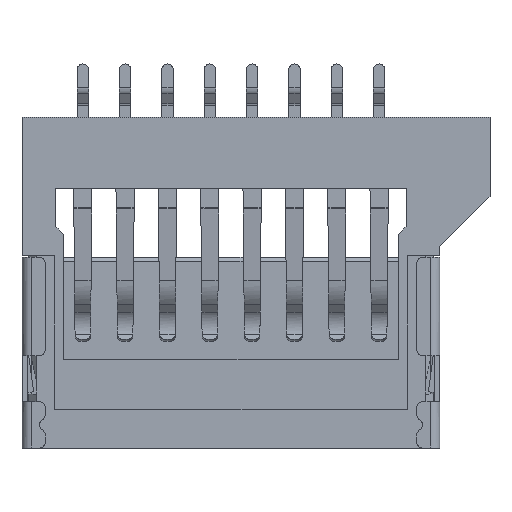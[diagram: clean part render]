
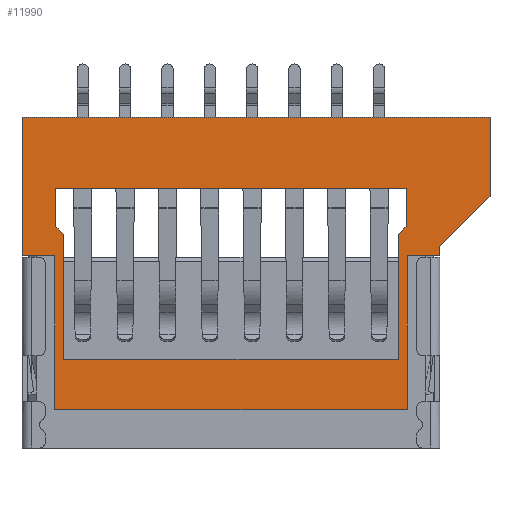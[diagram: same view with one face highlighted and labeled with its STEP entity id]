
A CAD part, front view. The second image highlights one B-rep face of the part: STEP entity #11990.
In plain terms, the highlighted planar face has unit normal (0, -1, 0).
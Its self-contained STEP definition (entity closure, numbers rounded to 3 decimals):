
#11249=DIRECTION('',(-1.,0.,0.));
#11250=VECTOR('',#11249,9.16);
#11251=CARTESIAN_POINT('',(4.58,0.,-7.6));
#11252=LINE('',#11251,#11250);
#11253=DIRECTION('',(0.,0.,1.));
#11254=VECTOR('',#11253,4.);
#11255=CARTESIAN_POINT('',(-4.58,0.,-7.6));
#11256=LINE('',#11255,#11254);
#11257=DIRECTION('',(-1.,0.,0.));
#11258=VECTOR('',#11257,0.85);
#11259=CARTESIAN_POINT('',(-4.58,0.,-3.6));
#11260=LINE('',#11259,#11258);
#11261=DIRECTION('',(0.,0.,1.));
#11262=VECTOR('',#11261,3.6);
#11263=CARTESIAN_POINT('',(-5.43,0.,-3.6));
#11264=LINE('',#11263,#11262);
#11265=DIRECTION('',(1.,0.,0.));
#11266=VECTOR('',#11265,12.16);
#11267=CARTESIAN_POINT('',(-5.43,0.,0.));
#11268=LINE('',#11267,#11266);
#11269=DIRECTION('',(0.,0.,-1.));
#11270=VECTOR('',#11269,2.06);
#11271=CARTESIAN_POINT('',(6.73,0.,0.));
#11272=LINE('',#11271,#11270);
#11273=DIRECTION('',(-0.707,0.,-0.707));
#11274=VECTOR('',#11273,1.838);
#11275=CARTESIAN_POINT('',(6.73,0.,-2.06));
#11276=LINE('',#11275,#11274);
#11277=DIRECTION('',(0.,0.,-1.));
#11278=VECTOR('',#11277,0.24);
#11279=CARTESIAN_POINT('',(5.43,0.,-3.36));
#11280=LINE('',#11279,#11278);
#11281=DIRECTION('',(-1.,0.,0.));
#11282=VECTOR('',#11281,0.85);
#11283=CARTESIAN_POINT('',(5.43,0.,-3.6));
#11284=LINE('',#11283,#11282);
#11285=DIRECTION('',(0.,0.,-1.));
#11286=VECTOR('',#11285,4.);
#11287=CARTESIAN_POINT('',(4.58,0.,-3.6));
#11288=LINE('',#11287,#11286);
#11289=DIRECTION('',(0.,0.,-1.));
#11290=VECTOR('',#11289,1.);
#11291=CARTESIAN_POINT('',(-4.55,0.,-1.85));
#11292=LINE('',#11291,#11290);
#11293=DIRECTION('',(0.707,0.,-0.707));
#11294=VECTOR('',#11293,0.283);
#11295=CARTESIAN_POINT('',(-4.55,0.,-2.85));
#11296=LINE('',#11295,#11294);
#11297=DIRECTION('',(0.,0.,-1.));
#11298=VECTOR('',#11297,3.25);
#11299=CARTESIAN_POINT('',(-4.35,0.,-3.05));
#11300=LINE('',#11299,#11298);
#11301=DIRECTION('',(1.,0.,0.));
#11302=VECTOR('',#11301,8.7);
#11303=CARTESIAN_POINT('',(-4.35,0.,-6.3));
#11304=LINE('',#11303,#11302);
#11305=DIRECTION('',(0.,0.,1.));
#11306=VECTOR('',#11305,3.25);
#11307=CARTESIAN_POINT('',(4.35,0.,-6.3));
#11308=LINE('',#11307,#11306);
#11309=DIRECTION('',(0.707,0.,0.707));
#11310=VECTOR('',#11309,0.283);
#11311=CARTESIAN_POINT('',(4.35,0.,-3.05));
#11312=LINE('',#11311,#11310);
#11313=DIRECTION('',(0.,0.,1.));
#11314=VECTOR('',#11313,1.);
#11315=CARTESIAN_POINT('',(4.55,0.,-2.85));
#11316=LINE('',#11315,#11314);
#11317=DIRECTION('',(-1.,0.,0.));
#11318=VECTOR('',#11317,9.1);
#11319=CARTESIAN_POINT('',(4.55,0.,-1.85));
#11320=LINE('',#11319,#11318);
#11777=CARTESIAN_POINT('',(4.58,0.,-7.6));
#11778=CARTESIAN_POINT('',(-4.58,0.,-7.6));
#11779=VERTEX_POINT('',#11777);
#11780=VERTEX_POINT('',#11778);
#11781=CARTESIAN_POINT('',(-4.58,0.,-3.6));
#11782=VERTEX_POINT('',#11781);
#11783=CARTESIAN_POINT('',(-5.43,0.,-3.6));
#11784=VERTEX_POINT('',#11783);
#11785=CARTESIAN_POINT('',(-5.43,0.,0.));
#11786=VERTEX_POINT('',#11785);
#11787=CARTESIAN_POINT('',(6.73,0.,0.));
#11788=VERTEX_POINT('',#11787);
#11789=CARTESIAN_POINT('',(6.73,0.,-2.06));
#11790=VERTEX_POINT('',#11789);
#11791=CARTESIAN_POINT('',(5.43,0.,-3.36));
#11792=VERTEX_POINT('',#11791);
#11793=CARTESIAN_POINT('',(5.43,0.,-3.6));
#11794=VERTEX_POINT('',#11793);
#11795=CARTESIAN_POINT('',(4.58,0.,-3.6));
#11796=VERTEX_POINT('',#11795);
#11797=CARTESIAN_POINT('',(-4.55,0.,-1.85));
#11798=CARTESIAN_POINT('',(-4.55,0.,-2.85));
#11799=VERTEX_POINT('',#11797);
#11800=VERTEX_POINT('',#11798);
#11801=CARTESIAN_POINT('',(-4.35,0.,-3.05));
#11802=VERTEX_POINT('',#11801);
#11803=CARTESIAN_POINT('',(-4.35,0.,-6.3));
#11804=VERTEX_POINT('',#11803);
#11805=CARTESIAN_POINT('',(4.35,0.,-6.3));
#11806=VERTEX_POINT('',#11805);
#11807=CARTESIAN_POINT('',(4.35,0.,-3.05));
#11808=VERTEX_POINT('',#11807);
#11809=CARTESIAN_POINT('',(4.55,0.,-2.85));
#11810=VERTEX_POINT('',#11809);
#11811=CARTESIAN_POINT('',(4.55,0.,-1.85));
#11812=VERTEX_POINT('',#11811);
#11945=CARTESIAN_POINT('',(0.65,0.,-3.8));
#11946=DIRECTION('',(0.,1.,0.));
#11947=DIRECTION('',(1.,0.,0.));
#11948=AXIS2_PLACEMENT_3D('',#11945,#11946,#11947);
#11949=PLANE('',#11948);
#11951=ORIENTED_EDGE('',*,*,#11950,.T.);
#11953=ORIENTED_EDGE('',*,*,#11952,.T.);
#11955=ORIENTED_EDGE('',*,*,#11954,.T.);
#11957=ORIENTED_EDGE('',*,*,#11956,.T.);
#11959=ORIENTED_EDGE('',*,*,#11958,.T.);
#11961=ORIENTED_EDGE('',*,*,#11960,.T.);
#11963=ORIENTED_EDGE('',*,*,#11962,.T.);
#11965=ORIENTED_EDGE('',*,*,#11964,.T.);
#11967=ORIENTED_EDGE('',*,*,#11966,.T.);
#11969=ORIENTED_EDGE('',*,*,#11968,.T.);
#11970=EDGE_LOOP('',(#11951,#11953,#11955,#11957,#11959,#11961,#11963,#11965,
#11967,#11969));
#11971=FACE_OUTER_BOUND('',#11970,.F.);
#11973=ORIENTED_EDGE('',*,*,#11972,.T.);
#11975=ORIENTED_EDGE('',*,*,#11974,.T.);
#11977=ORIENTED_EDGE('',*,*,#11976,.T.);
#11979=ORIENTED_EDGE('',*,*,#11978,.T.);
#11981=ORIENTED_EDGE('',*,*,#11980,.T.);
#11983=ORIENTED_EDGE('',*,*,#11982,.T.);
#11985=ORIENTED_EDGE('',*,*,#11984,.T.);
#11987=ORIENTED_EDGE('',*,*,#11986,.T.);
#11988=EDGE_LOOP('',(#11973,#11975,#11977,#11979,#11981,#11983,#11985,#11987));
#11989=FACE_BOUND('',#11988,.F.);
#11950=EDGE_CURVE('',#11779,#11780,#11252,.T.);
#11952=EDGE_CURVE('',#11780,#11782,#11256,.T.);
#11954=EDGE_CURVE('',#11782,#11784,#11260,.T.);
#11956=EDGE_CURVE('',#11784,#11786,#11264,.T.);
#11958=EDGE_CURVE('',#11786,#11788,#11268,.T.);
#11960=EDGE_CURVE('',#11788,#11790,#11272,.T.);
#11962=EDGE_CURVE('',#11790,#11792,#11276,.T.);
#11964=EDGE_CURVE('',#11792,#11794,#11280,.T.);
#11966=EDGE_CURVE('',#11794,#11796,#11284,.T.);
#11968=EDGE_CURVE('',#11796,#11779,#11288,.T.);
#11972=EDGE_CURVE('',#11799,#11800,#11292,.T.);
#11974=EDGE_CURVE('',#11800,#11802,#11296,.T.);
#11976=EDGE_CURVE('',#11802,#11804,#11300,.T.);
#11978=EDGE_CURVE('',#11804,#11806,#11304,.T.);
#11980=EDGE_CURVE('',#11806,#11808,#11308,.T.);
#11982=EDGE_CURVE('',#11808,#11810,#11312,.T.);
#11984=EDGE_CURVE('',#11810,#11812,#11316,.T.);
#11986=EDGE_CURVE('',#11812,#11799,#11320,.T.);
#11990=ADVANCED_FACE('',(#11971,#11989),#11949,.F.);
